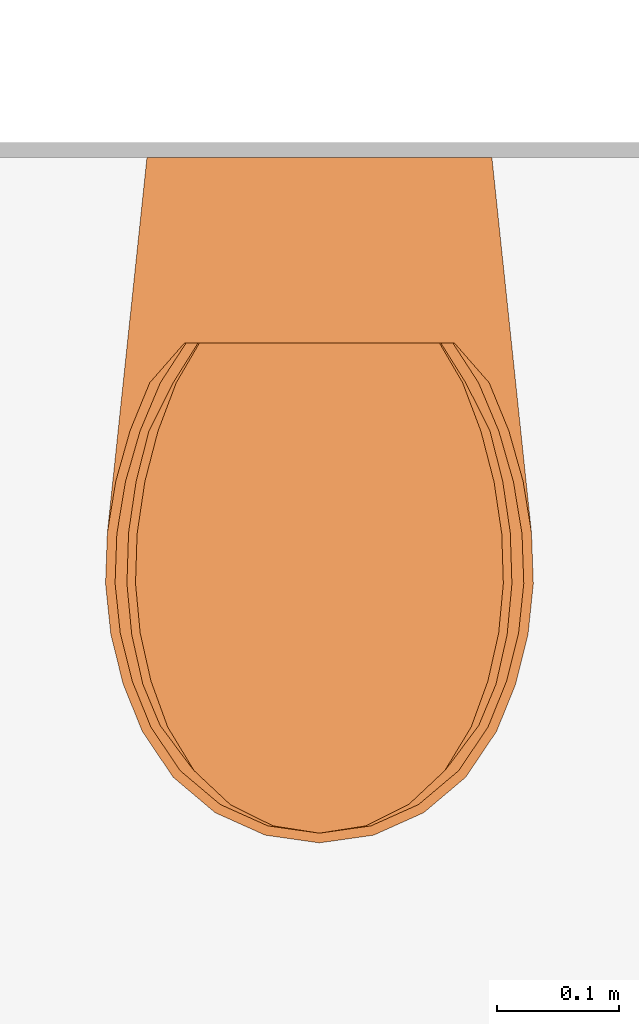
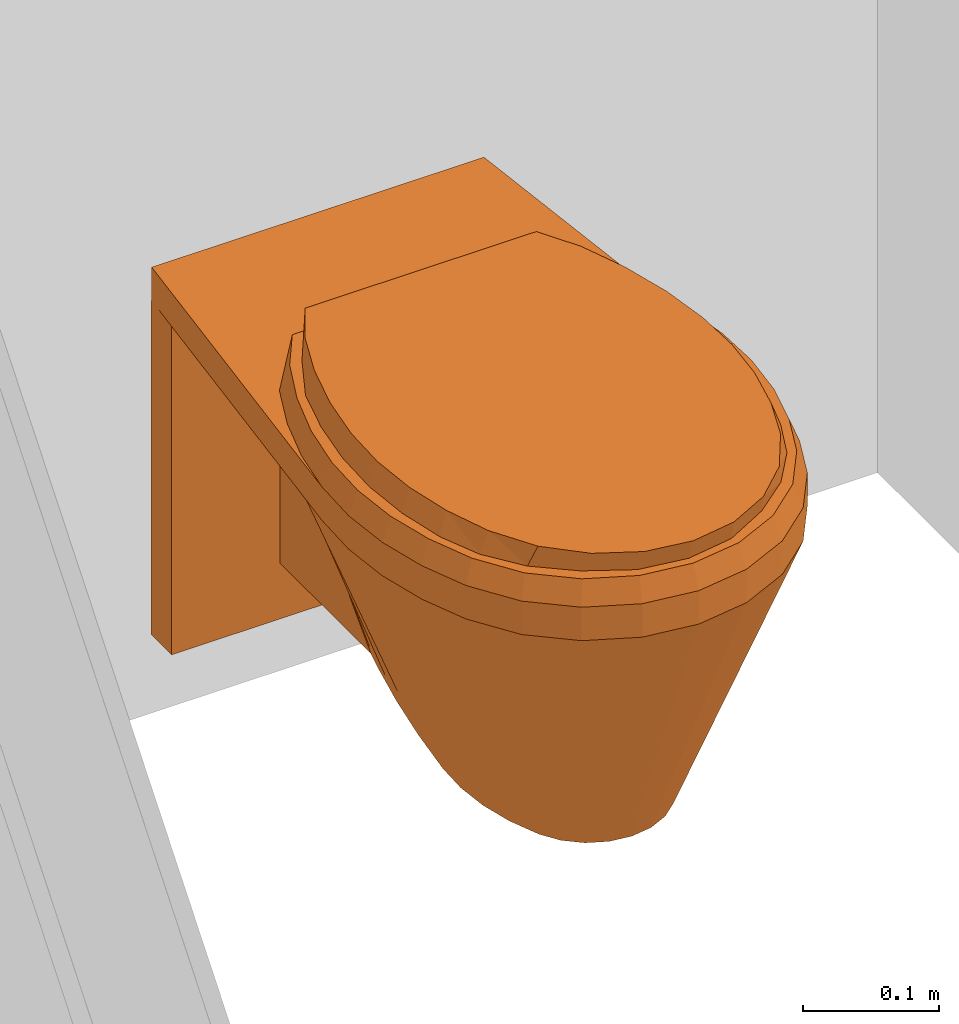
# One storey, part 91 of 99: 1 proxy.
"""IFC2X3 building model written with IfcOpenShell, lengths in millimetres."""

from ifc_helpers import new_model, entity, si_unit, converted_unit, derived_unit, money_unit, direction, frame, origin_with_axes, place, context, subcontext, project, spatial, open_shell, faceted_brep, surface_model, source, transform, mapped, type_object, type_shapes, element, save


model = new_model("IFC2X3")

# Units and contexts
model_context = context("Model", 3, precision=0.01, world=origin_with_axes(), true_north=direction((0.0, 1.0)))
body_context = subcontext(model_context, "Body", "Model", "MODEL_VIEW")
ifc_project = project(units=[si_unit("LENGTHUNIT", "METRE", prefix="MILLI"), si_unit("AREAUNIT", "SQUARE_METRE"), si_unit("VOLUMEUNIT", "CUBIC_METRE"), converted_unit("PLANEANGLEUNIT", "DEGREE", entity("IfcPlaneAngleMeasure", 0.0174532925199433), si_unit("PLANEANGLEUNIT", "RADIAN"), dimensions=[0, 0, 0, 0, 0, 0, 0]), money_unit("EUR"), converted_unit("TIMEUNIT", "Year", entity("IfcTimeMeasure", 31557600.0), si_unit("TIMEUNIT", "SECOND"), dimensions=[0, 0, 1, 0, 0, 0, 0]), si_unit("MASSUNIT", "GRAM", prefix="KILO"), si_unit("THERMODYNAMICTEMPERATUREUNIT", "DEGREE_CELSIUS"), si_unit("LUMINOUSINTENSITYUNIT", "LUMEN"), si_unit("ENERGYUNIT", "JOULE", prefix="MEGA"), derived_unit("THERMALCONDUCTANCEUNIT", [(si_unit("POWERUNIT", "WATT"), 1), (si_unit("LENGTHUNIT", "METRE"), -1), (si_unit("THERMODYNAMICTEMPERATUREUNIT", "KELVIN"), -1)]), derived_unit("SPECIFICHEATCAPACITYUNIT", [(si_unit("ENERGYUNIT", "JOULE"), 1), (si_unit("MASSUNIT", "GRAM", prefix="KILO"), -1), (si_unit("THERMODYNAMICTEMPERATUREUNIT", "KELVIN"), -1)]), derived_unit("MASSDENSITYUNIT", [(si_unit("MASSUNIT", "GRAM", prefix="KILO"), 1), (si_unit("VOLUMEUNIT", "CUBIC_METRE"), -1)])], contexts=[model_context])

# Site, building, storey
site_placement = place(None, origin_with_axes())
site = spatial("IfcSite", under=ifc_project, at=site_placement, Name="Site", CompositionType="ELEMENT")
building_placement = place(site_placement, origin_with_axes())
building = spatial("IfcBuilding", under=site, at=building_placement, Name="Naam gebouw", CompositionType="ELEMENT")
storey_placement = place(building_placement, frame((0.0, 0.0, 7650.0), z_axis=(0.0, 0.0, 1.0), x_axis=(1.0, 0.0, 0.0)))
storey = spatial("IfcBuildingStorey", under=building, at=storey_placement, Name="2e verdieping N", CompositionType="ELEMENT", Elevation=7650.0)

# Proxy
building_element_proxy_type = type_object("IfcBuildingElementProxyType", Name="Toilet 27", PredefinedType="NOTDEFINED")
shared_shape = source(origin_with_axes(), body_context, "Body", "SurfaceModel", [
    faceted_brep([(-141.0283315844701, -29.31865370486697, 69.99999999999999), (-141.0283315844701, 0.4949050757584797, 69.99999999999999), (141.0283315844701, 0.4949050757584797, 69.99999999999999), (141.0283315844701, -29.31865370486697, 69.99999999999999), (-141.0283315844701, -29.31865370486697, 370.0), (-141.0283315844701, 0.4949050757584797, 370.0), (141.0283315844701, 0.4949050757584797, 370.0), (141.0283315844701, -29.31865370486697, 370.0)], [[[0, 1, 2, 3]], [[0, 4, 5, 1]], [[1, 5, 6, 2]], [[2, 6, 7, 3]], [[3, 7, 4, 0]], [[7, 6, 5, 4]]]),
    faceted_brep([(0.0, -70.89167385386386, 370.0), (29.22322490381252, -74.34010881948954, 370.0), (48.96817068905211, -81.5929972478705, 370.0), (48.96817068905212, -29.31865370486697, 370.0), (-48.96817068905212, -29.31865370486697, 370.0), (-48.96817068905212, -81.5929972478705, 370.0), (-29.22322490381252, -74.34010881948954, 370.0), (0.0, -102.6888280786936, 120.0), (13.70129415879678, -104.9506834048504, 120.0), (48.96817068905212, -88.2509938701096, 324.1614695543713), (48.96817068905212, -91.42153264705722, 305.9289314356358), (48.96817068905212, -107.0876370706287, 223.4625696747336), (48.96817068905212, -115.6023982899, 192.7960154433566), (48.96817068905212, -121.830119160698, 170.4964192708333), (48.96817068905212, -132.9294031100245, 150.8349994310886), (48.96817068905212, -136.958898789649, 141.3134093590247), (48.96817068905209, -162.865413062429, 120.0), (48.96817068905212, -29.31865370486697, 120.0), (-48.96817068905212, -29.31865370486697, 120.0), (-48.96817068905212, -132.9294031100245, 150.8349994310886), (-48.96817068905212, -128.1614437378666, 166.4745945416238), (-48.96817068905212, -115.6023982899, 192.7960154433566), (-48.96817068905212, -98.32654517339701, 277.0091093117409), (-48.96817068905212, -91.42153264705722, 305.9289314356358), (-48.96817068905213, -162.8654130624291, 120.0), (-25.9903462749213, -111.5027098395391, 120.0), (-13.70129415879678, -104.9506834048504, 120.0), (25.9903462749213, -111.5027098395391, 120.0), (35.59888072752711, -121.6691333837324, 120.0), (41.53676110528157, -134.4015105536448, 120.0), (-35.59888072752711, -121.6691333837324, 120.0), (-41.53676110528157, -134.4015105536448, 120.0)], [[[0, 1, 2, 3, 4, 5, 6]], [[0, 7, 1]], [[1, 8, 9, 2]], [[9, 10, 11, 12, 13, 14, 15, 16, 17, 3, 2]], [[4, 3, 17, 18]], [[19, 20, 21, 22, 23, 5, 4, 18, 24]], [[23, 25, 6, 5]], [[6, 26, 0]], [[7, 0, 26]], [[8, 1, 7]], [[27, 10, 9, 8]], [[10, 27, 11]], [[28, 12, 11, 27]], [[12, 28, 13]], [[29, 14, 13, 28]], [[14, 29, 15]], [[16, 15, 29]], [[29, 28, 27, 8, 7, 26, 25, 30, 31, 24, 18, 17, 16]], [[19, 31, 20]], [[20, 31, 30, 21]], [[21, 30, 22]], [[22, 30, 25, 23]], [[24, 31, 19]], [[26, 6, 25]]]),
    surface_model("IfcShellBasedSurfaceModel", [(-17.69122070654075, -459.020482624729, 120.0), (-85.18209164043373, -535.3680377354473, 370.0), (-34.02798181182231, -451.6883347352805, 120.0), (-44.28681357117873, -553.722258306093, 370.0), (-119.554809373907, -506.3435444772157, 370.0), (-47.75865687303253, -440.0938417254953, 120.0), (-57.83238894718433, -425.1254476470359, 120.0), (-68.23029031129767, -399.4182096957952, 120.0), (-74.94382651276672, -372.4786779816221, 120.0), (-77.83882476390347, -344.845484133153, 120.0), (-76.85750262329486, -317.0761416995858, 120.0), (-70.97348723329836, -270.8651255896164, 120.0), (-63.11507520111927, -224.9582077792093, 120.0), (-53.29597761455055, -179.4418475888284, 120.0), (-41.53676110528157, -134.4015105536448, 120.0), (-35.59888072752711, -121.6691333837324, 120.0), (-25.9903462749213, -111.5027098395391, 120.0), (-13.70129415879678, -104.9506834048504, 120.0), (0.0, -102.6888280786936, 120.0), (13.70129415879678, -104.9506834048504, 120.0), (25.9903462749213, -111.5027098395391, 120.0), (35.59888072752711, -121.6691333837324, 120.0), (41.53676110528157, -134.4015105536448, 120.0), (53.29597761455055, -179.4418475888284, 120.0), (63.11507520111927, -224.9582077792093, 120.0), (70.97348723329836, -270.8651255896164, 120.0), (76.85750262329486, -317.0761416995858, 120.0), (77.83882476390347, -344.8464779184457, 120.0), (74.94382651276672, -372.4786779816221, 120.0), (68.23029031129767, -399.4182096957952, 120.0), (57.83238894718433, -425.1254476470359, 120.0), (47.75865687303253, -440.0938417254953, 120.0), (34.02798181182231, -451.6883347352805, 120.0), (17.69122070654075, -459.020482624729, 120.0), (0.0, -461.5278029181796, 120.0), (-144.7734172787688, -468.8718762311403, 370.0), (-160.3903462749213, -430.2603362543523, 370.0), (-170.4738719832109, -389.7973742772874, 370.0), (-174.8222455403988, -348.2949128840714, 370.0), (-173.3473242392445, -306.5847503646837, 370.0), (-164.8111927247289, -257.2969749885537, 370.0), (-149.8396642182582, -209.614162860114, 370.0), (-128.7050017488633, -164.3989196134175, 370.0), (-101.7881776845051, -122.4661491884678, 370.0), (-81.51241692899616, -100.8344247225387, 370.0), (-56.88632388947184, -84.50156343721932, 370.0), (-29.22322490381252, -74.34010881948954, 370.0), (0.0, -70.89167385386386, 370.0), (29.22322490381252, -74.34010881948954, 370.0), (56.88632388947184, -84.50156343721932, 370.0), (81.51241692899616, -100.8344247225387, 370.0), (101.7881776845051, -122.4661491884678, 370.0), (128.7050017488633, -164.3989196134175, 370.0), (149.8396642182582, -209.614162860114, 370.0), (164.8111927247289, -257.295981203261, 370.0), (173.3473242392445, -306.5847503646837, 370.0), (174.8222455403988, -348.2949128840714, 370.0), (170.4738719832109, -389.7973742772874, 370.0), (160.3893669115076, -430.2603362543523, 370.0), (144.7734172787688, -468.8718762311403, 370.0), (119.554809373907, -506.3435444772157, 370.0), (85.18209164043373, -535.3680377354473, 370.0), (44.28681357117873, -553.722258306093, 370.0), (0.0, -560.0, 370.0)], [open_shell([[[0, 1, 2]], [[0, 3, 1]], [[2, 1, 4]], [[0, 2, 5, 6, 7, 8, 9, 10, 11, 12, 13, 14, 15, 16, 17, 18, 19, 20, 21, 22, 23, 24, 25, 26, 27, 28, 29, 30, 31, 32, 33, 34]], [[34, 3, 0]], [[2, 4, 5]], [[5, 35, 6]], [[6, 36, 7]], [[7, 37, 8]], [[8, 38, 9]], [[9, 39, 10]], [[10, 40, 11]], [[11, 41, 12]], [[12, 42, 13]], [[13, 43, 14]], [[14, 44, 15]], [[15, 45, 16]], [[16, 46, 17]], [[17, 47, 18]], [[18, 48, 19]], [[19, 49, 20]], [[20, 50, 21]], [[21, 51, 22]], [[22, 52, 23]], [[23, 53, 24]], [[24, 54, 25]], [[25, 55, 26]], [[26, 56, 27]], [[27, 57, 28]], [[28, 58, 29]], [[29, 59, 30]], [[30, 60, 31]], [[31, 61, 32]], [[32, 62, 33]], [[33, 63, 34]], [[34, 63, 3]], [[5, 4, 35]], [[6, 35, 36]], [[7, 36, 37]], [[8, 37, 38]], [[9, 38, 39]], [[10, 39, 40]], [[11, 40, 41]], [[12, 41, 42]], [[13, 42, 43]], [[14, 43, 44]], [[15, 44, 45]], [[16, 45, 46]], [[17, 46, 47]], [[18, 47, 48]], [[19, 48, 49]], [[20, 49, 50]], [[21, 50, 51]], [[22, 51, 52]], [[23, 52, 53]], [[24, 53, 54]], [[25, 54, 55]], [[26, 55, 56]], [[27, 56, 57]], [[28, 57, 58]], [[29, 58, 59]], [[30, 59, 60]], [[31, 60, 61]], [[32, 61, 62]], [[33, 62, 63]]])]),
    faceted_brep([(173.3473242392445, -306.5847503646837, 370.0), (173.3473242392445, -306.5847503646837, 400.0), (174.8222455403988, -348.2949128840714, 400.0), (174.8222455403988, -348.2949128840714, 370.0), (140.9734872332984, 0.0, 370.0), (140.9734872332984, 0.0, 400.0), (-140.975445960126, 0.0, 400.0), (-173.3473242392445, -306.5847503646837, 400.0), (-174.8222455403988, -348.2949128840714, 400.0), (-170.4738719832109, -389.7973742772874, 400.0), (-160.3903462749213, -430.2603362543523, 400.0), (-144.7734172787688, -468.8718762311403, 400.0), (-119.554809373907, -506.3435444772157, 400.0), (-85.18209164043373, -535.3680377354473, 400.0), (-44.28681357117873, -553.722258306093, 400.0), (0.0, -560.0, 400.0), (44.28681357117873, -553.722258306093, 400.0), (85.18209164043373, -535.3680377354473, 400.0), (119.554809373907, -506.3435444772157, 400.0), (144.7734172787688, -468.8718762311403, 400.0), (160.3893669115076, -430.2603362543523, 400.0), (170.4738719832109, -389.7973742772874, 400.0), (-144.5021336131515, -309.7211367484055, 400.0), (-129.3885974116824, -258.2838037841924, 400.0), (-97.13522210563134, -215.7418429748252, 400.0), (-52.01301154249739, -187.731010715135, 400.0), (0.0, -177.9630950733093, 400.0), (52.01301154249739, -187.731010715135, 400.0), (97.13522210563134, -215.7418429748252, 400.0), (129.3885974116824, -258.2838037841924, 400.0), (144.5021336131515, -309.7211367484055, 400.0), (145.8291710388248, -347.2633637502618, 400.0), (141.914655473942, -384.6197529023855, 400.0), (132.838894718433, -421.0399963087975, 400.0), (118.7820916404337, -455.7936617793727, 400.0), (98.09206016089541, -486.5383973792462, 400.0), (69.89031129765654, -510.3524743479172, 400.0), (36.33634137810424, -525.411302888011, 400.0), (0.0, -530.5620920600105, 400.0), (-36.33634137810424, -525.411302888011, 400.0), (-69.89031129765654, -510.3524743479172, 400.0), (-98.09206016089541, -486.5383973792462, 400.0), (-118.7820916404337, -455.7936617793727, 400.0), (-132.838894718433, -421.0399963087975, 400.0), (-141.914655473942, -384.6197529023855, 400.0), (-145.8291710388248, -347.2633637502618, 400.0), (170.4738719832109, -389.7973742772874, 370.0), (160.3893669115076, -430.2603362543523, 370.0), (144.7734172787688, -468.8718762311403, 370.0), (119.554809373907, -506.3435444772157, 370.0), (85.18209164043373, -535.3680377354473, 370.0), (44.28681357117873, -553.722258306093, 370.0), (0.0, -560.0, 370.0), (-44.28681357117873, -553.722258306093, 370.0), (-85.18209164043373, -535.3680377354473, 370.0), (-119.554809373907, -506.3435444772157, 370.0), (-144.7734172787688, -468.8718762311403, 370.0), (-160.3903462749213, -430.2603362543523, 370.0), (-170.4738719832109, -389.7973742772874, 370.0), (-174.8222455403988, -348.2949128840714, 370.0), (-173.3473242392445, -306.5847503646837, 370.0), (-140.975445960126, 0.0, 370.0), (-144.5021336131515, -309.7211367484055, 370.0), (-145.8291710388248, -347.2633637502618, 370.0), (-141.914655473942, -384.6197529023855, 370.0), (-132.838894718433, -421.0399963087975, 370.0), (-118.7820916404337, -455.7936617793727, 370.0), (-98.09206016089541, -486.5383973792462, 370.0), (-69.89031129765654, -510.3524743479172, 370.0), (-36.33634137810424, -525.411302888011, 370.0), (0.0, -530.5620920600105, 370.0), (36.33634137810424, -525.411302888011, 370.0), (69.89031129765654, -510.3524743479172, 370.0), (98.09206016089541, -486.5383973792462, 370.0), (118.7820916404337, -455.7936617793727, 370.0), (132.838894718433, -421.0399963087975, 370.0), (141.914655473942, -384.6197529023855, 370.0), (145.8291710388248, -347.2633637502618, 370.0), (144.5021336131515, -309.7211367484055, 370.0), (129.3885974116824, -258.2838037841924, 370.0), (97.13522210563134, -215.7418429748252, 370.0), (52.01301154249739, -187.731010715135, 370.0), (0.0, -177.9630950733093, 370.0), (-52.01301154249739, -187.731010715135, 370.0), (-97.13522210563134, -215.7418429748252, 370.0), (-129.3885974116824, -258.2838037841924, 370.0)], [[[0, 1, 2, 3]], [[4, 5, 1, 0]], [[1, 5, 6, 7, 8, 9, 10, 11, 12, 13, 14, 15, 16, 17, 18, 19, 20, 21, 2], [22, 23, 24, 25, 26, 27, 28, 29, 30, 31, 32, 33, 34, 35, 36, 37, 38, 39, 40, 41, 42, 43, 44, 45]], [[3, 2, 21, 46]], [[0, 3, 46, 47, 48, 49, 50, 51, 52, 53, 54, 55, 56, 57, 58, 59, 60, 61, 4], [62, 63, 64, 65, 66, 67, 68, 69, 70, 71, 72, 73, 74, 75, 76, 77, 78, 79, 80, 81, 82, 83, 84, 85]], [[61, 6, 5, 4]], [[60, 7, 6, 61]], [[59, 8, 7, 60]], [[58, 9, 8, 59]], [[57, 10, 9, 58]], [[56, 11, 10, 57]], [[55, 12, 11, 56]], [[54, 13, 12, 55]], [[53, 14, 13, 54]], [[52, 15, 14, 53]], [[51, 16, 15, 52]], [[50, 17, 16, 51]], [[49, 18, 17, 50]], [[48, 19, 18, 49]], [[47, 20, 19, 48]], [[46, 21, 20, 47]], [[85, 23, 22, 62]], [[84, 24, 23, 85]], [[83, 25, 24, 84]], [[82, 26, 25, 83]], [[81, 27, 26, 82]], [[80, 28, 27, 81]], [[79, 29, 28, 80]], [[78, 30, 29, 79]], [[77, 31, 30, 78]], [[76, 32, 31, 77]], [[75, 33, 32, 76]], [[74, 34, 33, 75]], [[73, 35, 34, 74]], [[72, 36, 35, 73]], [[71, 37, 36, 72]], [[70, 38, 37, 71]], [[69, 39, 38, 70]], [[68, 40, 39, 69]], [[67, 41, 40, 68]], [[66, 42, 41, 67]], [[65, 43, 42, 66]], [[64, 44, 43, 65]], [[63, 45, 44, 64]], [[62, 22, 45, 63]]]),
    surface_model("IfcShellBasedSurfaceModel", [(-16.80665967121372, -465.7329258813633, 220.0), (-80.92298705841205, -525.2840188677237, 370.0), (-32.3265827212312, -460.0138505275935, 220.0), (-42.0724728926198, -539.6003109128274, 370.0), (-113.5770689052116, -502.644914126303, 370.0), (-45.3707240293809, -450.970145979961, 220.0), (-54.94076949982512, -439.2947985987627, 220.0), (-64.81877579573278, -419.2431529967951, 220.0), (-71.1966351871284, -398.23031825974, 220.0), (-73.9468835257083, -376.6764270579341, 220.0), (-73.01462749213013, -355.0163399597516, 220.0), (-67.42481287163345, -318.9717473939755, 220.0), (-59.95932144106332, -283.164351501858, 220.0), (-50.63117873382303, -247.6615905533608, 220.0), (-39.4599230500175, -212.5301276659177, 220.0), (-33.81893669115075, -202.598873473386, 220.0), (-24.69082896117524, -194.6690631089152, 220.0), (-13.01622945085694, -189.558482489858, 220.0), (0.0, -187.7942353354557, 220.0), (13.01622945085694, -189.558482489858, 220.0), (24.69082896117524, -194.6690631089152, 220.0), (33.81893669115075, -202.598873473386, 220.0), (39.4599230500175, -212.5301276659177, 220.0), (50.63117873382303, -247.6615905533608, 220.0), (59.95932144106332, -283.164351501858, 220.0), (67.42481287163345, -318.9717473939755, 220.0), (73.01462749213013, -355.0163399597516, 220.0), (73.9468835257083, -376.6772022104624, 220.0), (71.1966351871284, -398.23031825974, 220.0), (64.81877579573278, -419.2431529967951, 220.0), (54.94076949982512, -439.2947985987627, 220.0), (45.3707240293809, -450.970145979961, 220.0), (32.3265827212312, -460.0138505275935, 220.0), (16.80665967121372, -465.7329258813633, 220.0), (0.0, -467.6886357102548, 220.0), (-137.5347464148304, -473.4170128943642, 370.0), (-152.3708289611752, -443.3000117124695, 370.0), (-161.9501783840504, -411.7389013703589, 370.0), (-166.0811332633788, -379.3669814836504, 370.0), (-164.6799580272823, -346.833054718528, 370.0), (-156.5706330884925, -308.3885899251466, 370.0), (-142.3476810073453, -271.1959964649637, 370.0), (-122.2697516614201, -235.9281067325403, 370.0), (-96.69876880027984, -203.2205458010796, 370.0), (-77.43679608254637, -186.3478007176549, 370.0), (-54.04200769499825, -173.6081689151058, 370.0), (-27.7620636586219, -165.6822343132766, 370.0), (0.0, -162.9924550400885, 370.0), (27.7620636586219, -165.6822343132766, 370.0), (54.04200769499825, -173.6081689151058, 370.0), (77.43679608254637, -186.3478007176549, 370.0), (96.69876880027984, -203.2205458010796, 370.0), (122.2697516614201, -235.9281067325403, 370.0), (142.3476810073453, -271.1959964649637, 370.0), (156.5706330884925, -308.3878147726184, 370.0), (164.6799580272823, -346.833054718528, 370.0), (166.0811332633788, -379.3669814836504, 370.0), (161.9501783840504, -411.7389013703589, 370.0), (152.3698985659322, -443.3000117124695, 370.0), (137.5347464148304, -473.4170128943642, 370.0), (113.5770689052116, -502.644914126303, 370.0), (80.92298705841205, -525.2840188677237, 370.0), (42.0724728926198, -539.6003109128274, 370.0), (0.0, -544.4969494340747, 370.0)], [open_shell([[[0, 1, 2]], [[0, 3, 1]], [[2, 1, 4]], [[0, 2, 5, 6, 7, 8, 9, 10, 11, 12, 13, 14, 15, 16, 17, 18, 19, 20, 21, 22, 23, 24, 25, 26, 27, 28, 29, 30, 31, 32, 33, 34]], [[34, 3, 0]], [[2, 4, 5]], [[5, 35, 6]], [[6, 36, 7]], [[7, 37, 8]], [[8, 38, 9]], [[9, 39, 10]], [[10, 40, 11]], [[11, 41, 12]], [[12, 42, 13]], [[13, 43, 14]], [[14, 44, 15]], [[15, 45, 16]], [[16, 46, 17]], [[17, 47, 18]], [[18, 48, 19]], [[19, 49, 20]], [[20, 50, 21]], [[21, 51, 22]], [[22, 52, 23]], [[23, 53, 24]], [[24, 54, 25]], [[25, 55, 26]], [[26, 56, 27]], [[27, 57, 28]], [[28, 58, 29]], [[29, 59, 30]], [[30, 60, 31]], [[31, 61, 32]], [[32, 62, 33]], [[33, 63, 34]], [[34, 63, 3]], [[5, 4, 35]], [[6, 35, 36]], [[7, 36, 37]], [[8, 37, 38]], [[9, 38, 39]], [[10, 39, 40]], [[11, 40, 41]], [[12, 41, 42]], [[13, 42, 43]], [[14, 43, 44]], [[15, 44, 45]], [[16, 45, 46]], [[17, 46, 47]], [[18, 47, 48]], [[19, 48, 49]], [[20, 49, 50]], [[21, 50, 51]], [[22, 51, 52]], [[23, 52, 53]], [[24, 53, 54]], [[25, 54, 55]], [[26, 55, 56]], [[27, 56, 57]], [[28, 57, 58]], [[29, 58, 59]], [[30, 59, 60]], [[31, 60, 61]], [[32, 61, 62]], [[33, 62, 63]]])]),
    faceted_brep([(0.0, -560.0, 400.0), (-44.28681357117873, -553.722258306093, 400.0), (-85.18209164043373, -535.3680377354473, 400.0), (-119.554809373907, -506.3435444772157, 400.0), (-144.7734172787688, -468.8718762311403, 400.0), (-160.3903462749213, -430.2603362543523, 400.0), (-170.4738719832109, -389.7973742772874, 400.0), (-174.8222455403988, -348.2949128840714, 400.0), (-173.3473242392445, -306.5847503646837, 400.0), (-166.4663168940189, -264.4263906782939, 400.0), (-154.8716334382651, -223.3443004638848, 400.0), (-138.7150752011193, -183.8810864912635, 400.0), (-110.1926579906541, -151.3163525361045, 400.0), (110.1926579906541, -151.3163525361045, 400.0), (138.7150752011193, -183.8810864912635, 400.0), (154.8716334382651, -223.3443004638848, 400.0), (166.4663168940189, -264.4263906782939, 400.0), (173.3473242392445, -306.5847503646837, 400.0), (174.8222455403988, -348.2949128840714, 400.0), (170.4738719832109, -389.7973742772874, 400.0), (160.3893669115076, -430.2603362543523, 400.0), (144.7734172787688, -468.8718762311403, 400.0), (119.554809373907, -506.3435444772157, 400.0), (85.18209164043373, -535.3680377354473, 400.0), (44.28681357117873, -553.722258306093, 400.0), (-87.07689659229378, -411.9963613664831, 400.0), (-76.4888004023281, -438.0775703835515, 400.0), (-62.06856874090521, -459.4262123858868, 400.0), (-44.26109835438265, -474.4067566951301, 400.0), (-23.02579943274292, -483.9023013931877, 400.0), (0.0, -487.1544663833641, 400.0), (23.02579943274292, -483.9023013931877, 400.0), (44.26109835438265, -474.4067566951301, 400.0), (62.06856874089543, -459.4262123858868, 400.0), (76.4888004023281, -438.0775703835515, 400.0), (87.07689659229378, -411.9963613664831, 400.0), (94.51085540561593, -382.2763031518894, 400.0), (97.71606496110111, -351.7983255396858, 400.0), (96.61425296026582, -320.7429308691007, 400.0), (90.99294096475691, -286.7942733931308, 400.0), (81.3289539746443, -253.3384220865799, 400.0), (68.75412876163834, -223.4663237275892, 400.0), (-68.75448552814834, -223.4663237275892, 400.0), (-81.32886310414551, -253.3381075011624, 400.0), (-90.99294096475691, -286.7942733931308, 400.0), (-96.61425296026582, -320.7429308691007, 400.0), (-97.71606496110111, -351.7983255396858, 400.0), (-94.51085540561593, -382.2763031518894, 400.0), (-42.15180132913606, -546.1188070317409, 420.0000000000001), (-81.07562084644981, -528.649055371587, 420.0000000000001), (-113.7912556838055, -501.0248055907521, 420.0000000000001), (-137.7925148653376, -465.3598390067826, 420.0000000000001), (-152.9902763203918, -427.7848170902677, 420.0000000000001), (-162.8034977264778, -388.4070686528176, 420.0000000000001), (-167.0353270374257, -348.0176467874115, 420.0000000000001), (-165.6005596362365, -307.4274802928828, 420.0000000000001), (-158.5902763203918, -264.9332211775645, 420.0000000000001), (-146.6880727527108, -223.5758524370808, 420.0000000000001), (-130.06142007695, -183.9307757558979, 420.0000000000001), (-108.940468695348, -151.3163525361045, 420.0000000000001), (108.940468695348, -151.3163525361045, 420.0000000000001), (130.06142007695, -183.9317695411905, 420.0000000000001), (146.6880727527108, -223.5758524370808, 420.0000000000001), (158.5902763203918, -264.9332211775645, 420.0000000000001), (165.6005596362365, -307.4274802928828, 420.0000000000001), (167.0353270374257, -348.0176467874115, 420.0000000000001), (162.8034977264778, -388.4070686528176, 420.0000000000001), (152.9902763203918, -427.7848170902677, 420.0000000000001), (137.7925148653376, -465.3598390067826, 420.0000000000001), (113.7912556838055, -501.0248055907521, 420.0000000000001), (81.07562084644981, -528.649055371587, 420.0000000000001), (42.15180132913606, -546.1188070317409, 420.0000000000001), (0.0, -552.0944379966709, 420.0000000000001), (-76.4888004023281, -438.0775703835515, 420.0), (-87.07689659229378, -411.9963613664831, 420.0), (-62.06856874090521, -459.4262123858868, 420.0), (-44.26109835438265, -474.4067566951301, 420.0), (-23.02579943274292, -483.9023013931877, 420.0), (0.0, -487.1544663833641, 420.0), (23.02579943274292, -483.9023013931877, 420.0000000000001), (44.26109835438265, -474.4067566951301, 420.0000000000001), (62.06856874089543, -459.4262123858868, 420.0000000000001), (76.4888004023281, -438.0775703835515, 420.0000000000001), (87.07689659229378, -411.9963613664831, 420.0000000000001), (94.51085540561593, -382.2763031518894, 420.0000000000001), (97.71606496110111, -351.7983255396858, 420.0000000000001), (96.61425296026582, -320.7429308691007, 420.0000000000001), (90.99294096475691, -286.7942733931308, 420.0000000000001), (81.3289539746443, -253.3384220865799, 420.0000000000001), (68.75412876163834, -223.4663237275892, 420.0000000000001), (-68.75448552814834, -223.4663237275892, 420.0), (-81.32886310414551, -253.3381075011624, 420.0), (-90.99294096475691, -286.7942733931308, 420.0), (-96.61425296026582, -320.7429308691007, 420.0), (-97.71606496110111, -351.7983255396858, 420.0), (-94.51085540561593, -382.2763031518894, 420.0)], [[[0, 1, 2, 3, 4, 5, 6, 7, 8, 9, 10, 11, 12, 13, 14, 15, 16, 17, 18, 19, 20, 21, 22, 23, 24], [25, 26, 27, 28, 29, 30, 31, 32, 33, 34, 35, 36, 37, 38, 39, 40, 41, 42, 43, 44, 45, 46, 47]], [[0, 48, 1]], [[1, 49, 2]], [[2, 50, 3]], [[3, 51, 4]], [[5, 4, 51, 52]], [[5, 53, 6]], [[7, 6, 53, 54]], [[7, 55, 8]], [[8, 56, 9]], [[9, 57, 10]], [[10, 58, 11]], [[11, 59, 12]], [[13, 12, 59, 60]], [[13, 61, 14]], [[14, 62, 15]], [[15, 63, 16]], [[16, 64, 17]], [[17, 65, 18]], [[19, 18, 65, 66]], [[19, 67, 20]], [[20, 68, 21]], [[21, 69, 22]], [[22, 70, 23]], [[23, 71, 24]], [[24, 72, 0]], [[73, 26, 25, 74]], [[75, 27, 26, 73]], [[76, 28, 27, 75]], [[77, 29, 28, 76]], [[78, 30, 29, 77]], [[79, 31, 30, 78]], [[80, 32, 31, 79]], [[81, 33, 32, 80]], [[82, 34, 33, 81]], [[83, 35, 34, 82]], [[84, 36, 35, 83]], [[85, 37, 36, 84]], [[86, 38, 37, 85]], [[87, 39, 38, 86]], [[88, 40, 39, 87]], [[89, 41, 40, 88]], [[90, 42, 41, 89]], [[91, 43, 42, 90]], [[92, 44, 43, 91]], [[93, 45, 44, 92]], [[94, 46, 45, 93]], [[95, 47, 46, 94]], [[74, 25, 47, 95]], [[0, 72, 48]], [[1, 48, 49]], [[2, 49, 50]], [[3, 50, 51]], [[66, 65, 64, 63, 62, 61, 60, 59, 58, 57, 56, 55, 54, 53, 52, 51, 50, 49, 48, 72, 71, 70, 69, 68, 67], [92, 91, 90, 89, 88, 87, 86, 85, 84, 83, 82, 81, 80, 79, 78, 77, 76, 75, 73, 74, 95, 94, 93]], [[5, 52, 53]], [[7, 54, 55]], [[8, 55, 56]], [[9, 56, 57]], [[10, 57, 58]], [[11, 58, 59]], [[13, 60, 61]], [[14, 61, 62]], [[15, 62, 63]], [[16, 63, 64]], [[17, 64, 65]], [[19, 66, 67]], [[20, 67, 68]], [[21, 68, 69]], [[22, 69, 70]], [[23, 70, 71]], [[24, 71, 72]]]),
    faceted_brep([(107.5993284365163, -494.4181209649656, 420.0000000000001), (72.96805876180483, -528.649055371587, 440.0000000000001), (76.66388247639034, -519.4674730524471, 420.0000000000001), (102.412130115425, -501.0248055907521, 440.0000000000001), (37.93662119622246, -546.1188070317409, 440.0000000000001), (39.85813221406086, -538.8154789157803, 420.0000000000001), (0.0, -545.0932206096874, 420.0000000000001), (-39.85813221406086, -538.8154789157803, 420.0000000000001), (-76.66388247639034, -519.4674730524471, 420.0000000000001), (-107.5993284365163, -494.4181209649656, 420.0000000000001), (-130.2960755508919, -463.9029497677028, 420.0000000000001), (-144.3513116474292, -430.2603362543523, 420.0000000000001), (-153.4264847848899, -389.7973742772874, 420.0000000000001), (-157.3400209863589, -348.2949128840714, 420.0000000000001), (-156.01259181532, -306.5847503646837, 420.0000000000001), (-149.819685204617, -264.4263906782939, 420.0000000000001), (-139.3844700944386, -223.3443004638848, 420.0000000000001), (-119.5550052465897, -183.8810864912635, 420.0000000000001), (-99.17339219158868, -151.3163525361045, 420.0000000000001), (99.17339219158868, -151.3163525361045, 420.0000000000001), (119.5550052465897, -183.8810864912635, 420.0000000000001), (139.3844700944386, -223.3443004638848, 420.0000000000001), (149.819685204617, -264.4263906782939, 420.0000000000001), (156.01259181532, -306.5847503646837, 420.0000000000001), (157.3400209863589, -348.2949128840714, 420.0000000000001), (153.4264847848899, -389.7973742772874, 420.0000000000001), (144.3504302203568, -430.2603362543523, 420.0000000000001), (130.2960755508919, -463.9029497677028, 420.0000000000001), (124.0132633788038, -465.3598390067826, 440.0000000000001), (137.6912486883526, -427.7848170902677, 440.0000000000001), (146.52314795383, -388.4070686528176, 440.0000000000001), (150.3317943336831, -348.0176467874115, 440.0000000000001), (149.0405036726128, -307.4274802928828, 440.0000000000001), (142.7312486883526, -264.9332211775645, 440.0000000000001), (132.0192654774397, -223.5758524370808, 440.0000000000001), (117.055278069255, -183.9317695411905, 440.0000000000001), (98.04642182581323, -151.3163525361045, 440.0000000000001), (-98.04642182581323, -151.3163525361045, 440.0000000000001), (-117.055278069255, -183.9307757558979, 440.0000000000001), (-132.0192654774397, -223.5758524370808, 440.0000000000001), (-142.7312486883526, -264.9332211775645, 440.0000000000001), (-149.0405036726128, -307.4274802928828, 440.0000000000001), (-150.3317943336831, -348.0176467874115, 440.0000000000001), (-146.52314795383, -388.4070686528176, 440.0000000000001), (-137.6912486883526, -427.7848170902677, 440.0000000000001), (-124.0132633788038, -465.3598390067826, 440.0000000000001), (-102.412130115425, -501.0248055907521, 440.0000000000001), (-72.96805876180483, -528.649055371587, 440.0000000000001), (-37.93662119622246, -546.1188070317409, 440.0000000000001), (0.0, -552.0944379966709, 440.0000000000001)], [[[0, 1, 2]], [[0, 3, 1]], [[2, 1, 4]], [[0, 2, 5, 6, 7, 8, 9, 10, 11, 12, 13, 14, 15, 16, 17, 18, 19, 20, 21, 22, 23, 24, 25, 26, 27]], [[27, 3, 0]], [[3, 28, 29, 30, 31, 32, 33, 34, 35, 36, 37, 38, 39, 40, 41, 42, 43, 44, 45, 46, 47, 48, 49, 4, 1]], [[2, 4, 5]], [[5, 49, 6]], [[6, 48, 7]], [[7, 47, 8]], [[8, 46, 9]], [[9, 45, 10]], [[10, 44, 11]], [[11, 43, 12]], [[12, 43, 42, 13]], [[13, 41, 14]], [[14, 40, 15]], [[15, 39, 16]], [[16, 38, 17]], [[17, 37, 18]], [[18, 37, 36, 19]], [[19, 35, 20]], [[20, 34, 21]], [[21, 33, 22]], [[22, 32, 23]], [[23, 31, 24]], [[24, 31, 30, 25]], [[25, 29, 26]], [[26, 28, 27]], [[27, 28, 3]], [[26, 29, 28]], [[25, 30, 29]], [[23, 32, 31]], [[22, 33, 32]], [[21, 34, 33]], [[20, 35, 34]], [[19, 36, 35]], [[17, 38, 37]], [[16, 39, 38]], [[15, 40, 39]], [[14, 41, 40]], [[13, 42, 41]], [[11, 44, 43]], [[10, 45, 44]], [[9, 46, 45]], [[8, 47, 46]], [[7, 48, 47]], [[6, 49, 48]], [[5, 4, 49]]]),
])
type_shapes(building_element_proxy_type, [shared_shape])
proxy_placement = place(storey_placement, frame((25802.99999999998, 15500.91242510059, 0.0), z_axis=(0.0, 0.0, 1.0), x_axis=(1.0, 0.0, 0.0)))
element("IfcBuildingElementProxy", 1, at=proxy_placement, inside=storey, type_object=building_element_proxy_type, Name="_Sanitair-x", context=body_context, shape_type="MappedRepresentation", body=[
    mapped(shared_shape, transform((0.0, 0.0, 0.0))),
])

save(model, "model.ifc")
